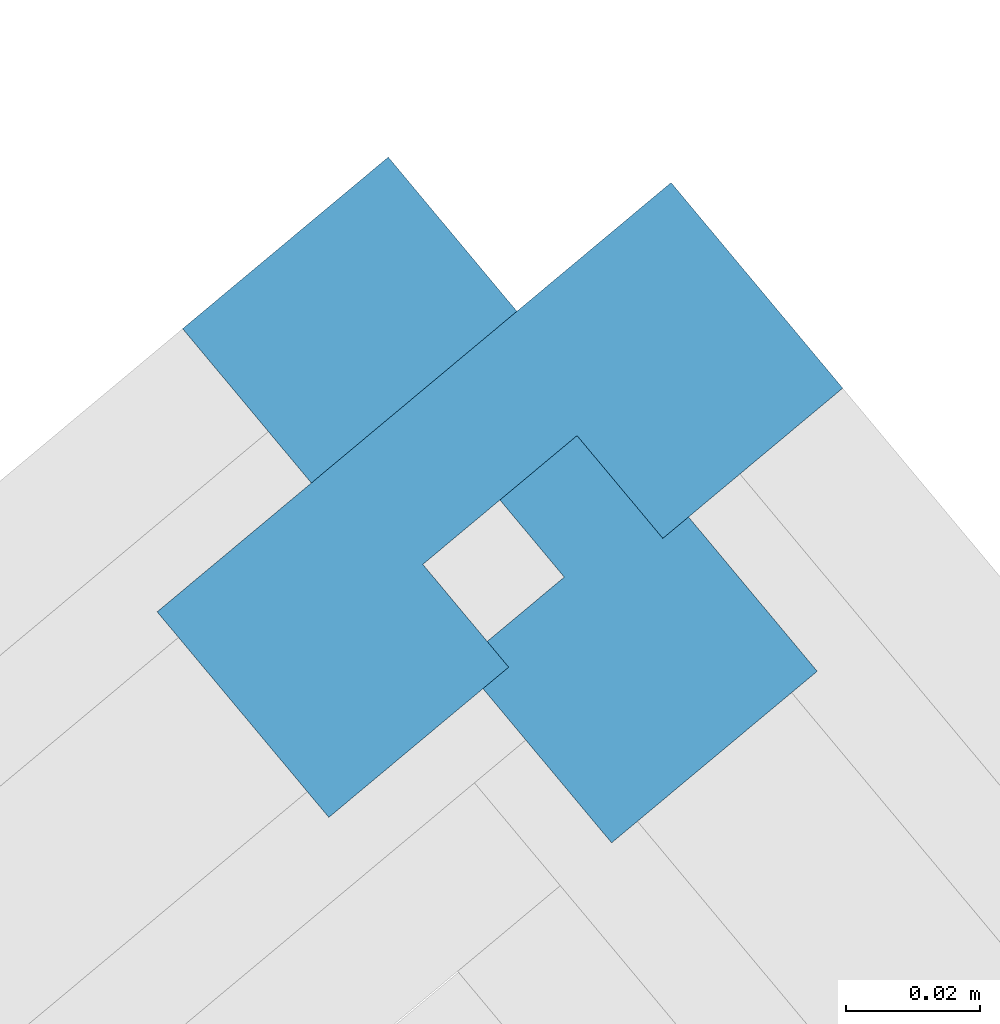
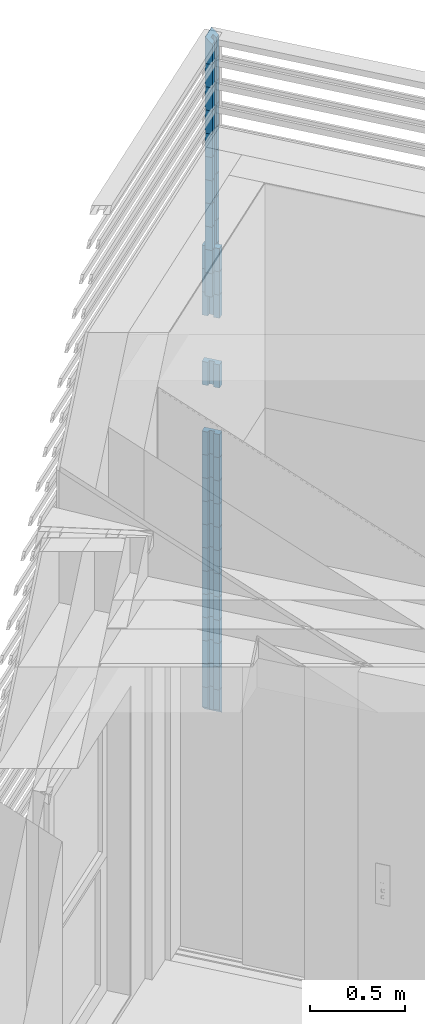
# One storey, part 46 of 50: 27 building element parts, 2 elements without a shape of their own.
"""IFC4 building model written with IfcOpenShell, lengths in metres."""

from ifc_helpers import new_model, entity, si_unit, converted_unit, derived_unit, direction, frame, origin_with_axes, place, context, subcontext, project, spatial, polygons, material, type_object, element, aggregate, save


model = new_model("IFC4")

# Units and contexts
model_context = context("Model", 3, precision=1e-05, world=origin_with_axes(), true_north=direction((0.0, 1.0)))
body_context = subcontext(model_context, "Body", "Model", "MODEL_VIEW")
ifc_project = project(units=[si_unit("LENGTHUNIT", "METRE"), si_unit("AREAUNIT", "SQUARE_METRE"), si_unit("VOLUMEUNIT", "CUBIC_METRE"), converted_unit("PLANEANGLEUNIT", "DEGREE", entity("IfcPlaneAngleMeasure", 0.0174532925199), si_unit("PLANEANGLEUNIT", "RADIAN"), dimensions=[0, 0, 0, 0, 0, 0, 0]), converted_unit("TIMEUNIT", "Year", entity("IfcTimeMeasure", 31556926.0), si_unit("TIMEUNIT", "SECOND"), dimensions=[0, 0, 1, 0, 0, 0, 0]), si_unit("MASSUNIT", "GRAM", prefix="KILO"), si_unit("THERMODYNAMICTEMPERATUREUNIT", "DEGREE_CELSIUS"), si_unit("LUMINOUSINTENSITYUNIT", "LUMEN"), si_unit("ENERGYUNIT", "JOULE", prefix="MEGA"), derived_unit("THERMALCONDUCTANCEUNIT", [(si_unit("POWERUNIT", "WATT"), 1), (si_unit("LENGTHUNIT", "METRE"), -1), (si_unit("THERMODYNAMICTEMPERATUREUNIT", "KELVIN"), -1)]), derived_unit("SPECIFICHEATCAPACITYUNIT", [(si_unit("ENERGYUNIT", "JOULE"), 1), (si_unit("MASSUNIT", "GRAM", prefix="KILO"), -1), (si_unit("THERMODYNAMICTEMPERATUREUNIT", "KELVIN"), -1)]), derived_unit("MASSDENSITYUNIT", [(si_unit("MASSUNIT", "GRAM", prefix="KILO"), 1), (si_unit("VOLUMEUNIT", "CUBIC_METRE"), -1)])], contexts=[model_context])

# Site, building, storey, space
site_placement = place(None, frame((-0.00153261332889, -0.00661245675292, 0.0), z_axis=(0.0, 0.0, 1.0), x_axis=(1.0, 0.0, 0.0)))
site = spatial("IfcSite", under=ifc_project, at=site_placement, Name="Gelände", CompositionType="ELEMENT")
building_placement = place(site_placement, origin_with_axes())
building = spatial("IfcBuilding", under=site, at=building_placement, Name="Gebäude", CompositionType="ELEMENT")
storey_placement = place(building_placement, frame((0.0, 0.0, 8.66), z_axis=(0.0, 0.0, 1.0), x_axis=(1.0, 0.0, 0.0)))
storey = spatial("IfcBuildingStorey", under=building, at=storey_placement, Name="DG2", CompositionType="ELEMENT", Elevation=8.66)
space_1_placement = place(storey_placement, frame((6.83696947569, 22.4856827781, 0.22), z_axis=(0.0, 0.0, 1.0), x_axis=(0.767365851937, 0.641209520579, 0.0)))
space_1 = spatial("IfcSpace", under=storey, at=space_1_placement, CompositionType="ELEMENT", PredefinedType="NOTDEFINED")

# Curtain wall, building element parts
curtain_wall_type = type_object("IfcCurtainWallType", Name="Fassadentyp", PredefinedType="NOTDEFINED")
curtain_wall_1_placement = place(space_1_placement, frame((-0.611260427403, 4.89750550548, 0.1), z_axis=(0.0, 0.0, 1.0), x_axis=(0.767365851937, -0.641209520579, 0.0)))
curtain_wall_1 = element("IfcCurtainWall", 1, at=curtain_wall_1_placement, inside=space_1, type_object=curtain_wall_type, Name="Fassade-001", PredefinedType="NOTDEFINED")
ifc_material = material(Name="Blech")
building_element_part_1_placement = place(curtain_wall_1_placement, origin_with_axes())
building_element_part_1 = element("IfcBuildingElementPart", 2, at=building_element_part_1_placement, material=ifc_material, Name="Blech", PredefinedType="NOTDEFINED", context=body_context, shape_type="Tessellation", body=[
    polygons([(-1.57788459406, 1.86580520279, 2.85), (-1.55485923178, 1.88503623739, 2.85), (-1.54203854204, 1.86968599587, 2.85), (-1.51517561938, 1.8921222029, 2.85), (-1.54081699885, 1.92282268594, 2.85), (-1.61756820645, 1.85871923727, 2.85), (-1.59192682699, 1.82801875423, 2.85), (-1.56506390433, 1.85045496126, 2.85), (-1.57788459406, 1.86580520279, 2.7), (-1.55485923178, 1.88503623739, 2.7), (-1.54203854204, 1.86968599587, 2.7), (-1.51517561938, 1.8921222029, 2.7), (-1.54081699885, 1.92282268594, 2.7), (-1.61756820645, 1.85871923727, 2.7), (-1.59192682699, 1.82801875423, 2.7), (-1.56506390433, 1.85045496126, 2.7)], [[[1, 2, 3, 4, 5, 6, 7, 8]], [[2, 1, 9, 10]], [[11, 3, 2, 10]], [[3, 11, 12, 4]], [[13, 5, 4, 12]], [[14, 6, 5, 13]], [[15, 7, 6, 14]], [[16, 8, 7, 15]], [[1, 8, 16, 9]], [[9, 16, 15, 14, 13, 12, 11, 10]]], closed=True),
])
building_element_part_2_placement = place(curtain_wall_1_placement, origin_with_axes())
building_element_part_2 = element("IfcBuildingElementPart", 3, at=building_element_part_2_placement, material=ifc_material, Name="Blech", PredefinedType="NOTDEFINED", context=body_context, shape_type="Tessellation", body=[
    polygons([(-1.57788459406, 1.86580520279, 3.0), (-1.55485923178, 1.88503623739, 3.0), (-1.54203854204, 1.86968599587, 3.0), (-1.51517561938, 1.8921222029, 3.0), (-1.54081699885, 1.92282268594, 3.0), (-1.61756820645, 1.85871923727, 3.0), (-1.59192682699, 1.82801875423, 3.0), (-1.56506390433, 1.85045496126, 3.0), (-1.57788459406, 1.86580520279, 2.85), (-1.55485923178, 1.88503623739, 2.85), (-1.54203854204, 1.86968599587, 2.85), (-1.51517561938, 1.8921222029, 2.85), (-1.54081699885, 1.92282268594, 2.85), (-1.61756820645, 1.85871923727, 2.85), (-1.59192682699, 1.82801875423, 2.85), (-1.56506390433, 1.85045496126, 2.85)], [[[1, 2, 3, 4, 5, 6, 7, 8]], [[2, 1, 9, 10]], [[11, 3, 2, 10]], [[3, 11, 12, 4]], [[13, 5, 4, 12]], [[14, 6, 5, 13]], [[15, 7, 6, 14]], [[16, 8, 7, 15]], [[1, 8, 16, 9]], [[9, 16, 15, 14, 13, 12, 11, 10]]], closed=True),
])
building_element_part_3_placement = place(curtain_wall_1_placement, origin_with_axes())
building_element_part_3 = element("IfcBuildingElementPart", 4, at=building_element_part_3_placement, material=ifc_material, Name="Blech", PredefinedType="NOTDEFINED", context=body_context, shape_type="Tessellation", body=[
    polygons([(-1.57788459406, 1.86580520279, 3.15), (-1.55485923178, 1.88503623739, 3.15), (-1.54203854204, 1.86968599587, 3.15), (-1.51517561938, 1.8921222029, 3.15), (-1.54081699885, 1.92282268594, 3.15), (-1.61756820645, 1.85871923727, 3.15), (-1.59192682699, 1.82801875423, 3.15), (-1.56506390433, 1.85045496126, 3.15), (-1.57788459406, 1.86580520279, 3.0), (-1.55485923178, 1.88503623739, 3.0), (-1.54203854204, 1.86968599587, 3.0), (-1.51517561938, 1.8921222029, 3.0), (-1.54081699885, 1.92282268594, 3.0), (-1.61756820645, 1.85871923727, 3.0), (-1.59192682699, 1.82801875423, 3.0), (-1.56506390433, 1.85045496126, 3.0)], [[[1, 2, 3, 4, 5, 6, 7, 8]], [[2, 1, 9, 10]], [[11, 3, 2, 10]], [[3, 11, 12, 4]], [[13, 5, 4, 12]], [[14, 6, 5, 13]], [[15, 7, 6, 14]], [[16, 8, 7, 15]], [[1, 8, 16, 9]], [[9, 16, 15, 14, 13, 12, 11, 10]]], closed=True),
])
building_element_part_4_placement = place(curtain_wall_1_placement, origin_with_axes())
building_element_part_4 = element("IfcBuildingElementPart", 5, at=building_element_part_4_placement, material=ifc_material, Name="Blech", PredefinedType="NOTDEFINED", context=body_context, shape_type="Tessellation", body=[
    polygons([(-1.57788459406, 1.86580520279, 3.3), (-1.55485923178, 1.88503623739, 3.3), (-1.54203854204, 1.86968599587, 3.3), (-1.51517561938, 1.8921222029, 3.3), (-1.54081699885, 1.92282268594, 3.3), (-1.61756820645, 1.85871923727, 3.3), (-1.59192682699, 1.82801875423, 3.3), (-1.56506390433, 1.85045496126, 3.3), (-1.57788459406, 1.86580520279, 3.15), (-1.55485923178, 1.88503623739, 3.15), (-1.54203854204, 1.86968599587, 3.15), (-1.51517561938, 1.8921222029, 3.15), (-1.54081699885, 1.92282268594, 3.15), (-1.61756820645, 1.85871923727, 3.15), (-1.59192682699, 1.82801875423, 3.15), (-1.56506390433, 1.85045496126, 3.15)], [[[1, 2, 3, 4, 5, 6, 7, 8]], [[2, 1, 9, 10]], [[11, 3, 2, 10]], [[3, 11, 12, 4]], [[13, 5, 4, 12]], [[14, 6, 5, 13]], [[15, 7, 6, 14]], [[16, 8, 7, 15]], [[1, 8, 16, 9]], [[9, 16, 15, 14, 13, 12, 11, 10]]], closed=True),
])
building_element_part_5_placement = place(curtain_wall_1_placement, origin_with_axes())
building_element_part_5 = element("IfcBuildingElementPart", 6, at=building_element_part_5_placement, material=ifc_material, Name="Blech", PredefinedType="NOTDEFINED", context=body_context, shape_type="Tessellation", body=[
    polygons([(-1.57788459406, 1.86580520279, 3.45), (-1.55485923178, 1.88503623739, 3.45), (-1.54203854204, 1.86968599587, 3.45), (-1.51517561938, 1.8921222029, 3.45), (-1.54081699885, 1.92282268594, 3.45), (-1.61756820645, 1.85871923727, 3.45), (-1.59192682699, 1.82801875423, 3.45), (-1.56506390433, 1.85045496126, 3.45), (-1.57788459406, 1.86580520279, 3.3), (-1.55485923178, 1.88503623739, 3.3), (-1.54203854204, 1.86968599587, 3.3), (-1.51517561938, 1.8921222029, 3.3), (-1.54081699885, 1.92282268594, 3.3), (-1.61756820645, 1.85871923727, 3.3), (-1.59192682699, 1.82801875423, 3.3), (-1.56506390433, 1.85045496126, 3.3)], [[[1, 2, 3, 4, 5, 6, 7, 8]], [[2, 1, 9, 10]], [[11, 3, 2, 10]], [[3, 11, 12, 4]], [[13, 5, 4, 12]], [[14, 6, 5, 13]], [[15, 7, 6, 14]], [[16, 8, 7, 15]], [[1, 8, 16, 9]], [[9, 16, 15, 14, 13, 12, 11, 10]]], closed=True),
])
building_element_part_6_placement = place(curtain_wall_1_placement, origin_with_axes())
building_element_part_6 = element("IfcBuildingElementPart", 7, at=building_element_part_6_placement, material=ifc_material, Name="Blech", PredefinedType="NOTDEFINED", context=body_context, shape_type="Tessellation", body=[
    polygons([(-1.57788459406, 1.86580520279, 3.6), (-1.55485923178, 1.88503623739, 3.6), (-1.54203854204, 1.86968599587, 3.6), (-1.51517561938, 1.8921222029, 3.6), (-1.54081699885, 1.92282268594, 3.6), (-1.61756820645, 1.85871923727, 3.6), (-1.59192682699, 1.82801875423, 3.6), (-1.56506390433, 1.85045496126, 3.6), (-1.57788459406, 1.86580520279, 3.45), (-1.55485923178, 1.88503623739, 3.45), (-1.54203854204, 1.86968599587, 3.45), (-1.51517561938, 1.8921222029, 3.45), (-1.54081699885, 1.92282268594, 3.45), (-1.61756820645, 1.85871923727, 3.45), (-1.59192682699, 1.82801875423, 3.45), (-1.56506390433, 1.85045496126, 3.45)], [[[1, 2, 3, 4, 5, 6, 7, 8]], [[2, 1, 9, 10]], [[11, 3, 2, 10]], [[3, 11, 12, 4]], [[13, 5, 4, 12]], [[14, 6, 5, 13]], [[15, 7, 6, 14]], [[16, 8, 7, 15]], [[1, 8, 16, 9]], [[9, 16, 15, 14, 13, 12, 11, 10]]], closed=True),
])
building_element_part_7_placement = place(curtain_wall_1_placement, origin_with_axes())
building_element_part_7 = element("IfcBuildingElementPart", 8, at=building_element_part_7_placement, material=ifc_material, Name="Blech", PredefinedType="NOTDEFINED", context=body_context, shape_type="Tessellation", body=[
    polygons([(-1.57788459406, 1.86580520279, 3.75), (-1.55485923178, 1.88503623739, 3.75), (-1.54203854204, 1.86968599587, 3.75), (-1.51517561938, 1.8921222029, 3.75), (-1.54081699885, 1.92282268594, 3.75), (-1.61756820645, 1.85871923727, 3.75), (-1.59192682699, 1.82801875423, 3.75), (-1.56506390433, 1.85045496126, 3.75), (-1.57788459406, 1.86580520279, 3.6), (-1.55485923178, 1.88503623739, 3.6), (-1.54203854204, 1.86968599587, 3.6), (-1.51517561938, 1.8921222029, 3.6), (-1.54081699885, 1.92282268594, 3.6), (-1.61756820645, 1.85871923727, 3.6), (-1.59192682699, 1.82801875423, 3.6), (-1.56506390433, 1.85045496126, 3.6)], [[[1, 2, 3, 4, 5, 6, 7, 8]], [[2, 1, 9, 10]], [[11, 3, 2, 10]], [[3, 11, 12, 4]], [[13, 5, 4, 12]], [[14, 6, 5, 13]], [[15, 7, 6, 14]], [[16, 8, 7, 15]], [[1, 8, 16, 9]], [[9, 16, 15, 14, 13, 12, 11, 10]]], closed=True),
])
building_element_part_8_placement = place(curtain_wall_1_placement, origin_with_axes())
building_element_part_8 = element("IfcBuildingElementPart", 9, at=building_element_part_8_placement, material=ifc_material, Name="Blech", PredefinedType="NOTDEFINED", context=body_context, shape_type="Tessellation", body=[
    polygons([(-1.57788459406, 1.86580520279, 3.9), (-1.55485923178, 1.88503623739, 3.9), (-1.54203854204, 1.86968599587, 3.9), (-1.51517561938, 1.8921222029, 3.9), (-1.54081699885, 1.92282268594, 3.9), (-1.61756820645, 1.85871923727, 3.9), (-1.59192682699, 1.82801875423, 3.9), (-1.56506390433, 1.85045496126, 3.9), (-1.57788459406, 1.86580520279, 3.75), (-1.55485923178, 1.88503623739, 3.75), (-1.54203854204, 1.86968599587, 3.75), (-1.51517561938, 1.8921222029, 3.75), (-1.54081699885, 1.92282268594, 3.75), (-1.61756820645, 1.85871923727, 3.75), (-1.59192682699, 1.82801875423, 3.75), (-1.56506390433, 1.85045496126, 3.75)], [[[1, 2, 3, 4, 5, 6, 7, 8]], [[2, 1, 9, 10]], [[11, 3, 2, 10]], [[3, 11, 12, 4]], [[13, 5, 4, 12]], [[14, 6, 5, 13]], [[15, 7, 6, 14]], [[16, 8, 7, 15]], [[1, 8, 16, 9]], [[9, 16, 15, 14, 13, 12, 11, 10]]], closed=True),
])
building_element_part_9_placement = place(curtain_wall_1_placement, origin_with_axes())
building_element_part_9 = element("IfcBuildingElementPart", 10, at=building_element_part_9_placement, material=ifc_material, Name="Blech", PredefinedType="NOTDEFINED", context=body_context, shape_type="Tessellation", body=[
    polygons([(-1.57788459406, 1.86580520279, 4.05), (-1.55485923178, 1.88503623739, 4.05), (-1.54203854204, 1.86968599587, 4.05), (-1.51517561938, 1.8921222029, 4.05), (-1.54081699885, 1.92282268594, 4.05), (-1.61756820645, 1.85871923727, 4.05), (-1.59192682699, 1.82801875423, 4.05), (-1.56506390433, 1.85045496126, 4.05), (-1.57788459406, 1.86580520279, 3.9), (-1.55485923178, 1.88503623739, 3.9), (-1.54203854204, 1.86968599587, 3.9), (-1.51517561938, 1.8921222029, 3.9), (-1.54081699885, 1.92282268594, 3.9), (-1.61756820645, 1.85871923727, 3.9), (-1.59192682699, 1.82801875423, 3.9), (-1.56506390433, 1.85045496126, 3.9)], [[[1, 2, 3, 4, 5, 6, 7, 8]], [[2, 1, 9, 10]], [[11, 3, 2, 10]], [[3, 11, 12, 4]], [[13, 5, 4, 12]], [[14, 6, 5, 13]], [[15, 7, 6, 14]], [[16, 8, 7, 15]], [[1, 8, 16, 9]], [[9, 16, 15, 14, 13, 12, 11, 10]]], closed=True),
])
building_element_part_10_placement = place(curtain_wall_1_placement, origin_with_axes())
building_element_part_10 = element("IfcBuildingElementPart", 11, at=building_element_part_10_placement, material=ifc_material, Name="Blech", PredefinedType="NOTDEFINED", context=body_context, shape_type="Tessellation", body=[
    polygons([(-1.57788459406, 1.86580520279, 4.2), (-1.55485923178, 1.88503623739, 4.2), (-1.54203854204, 1.86968599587, 4.2), (-1.51517561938, 1.8921222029, 4.2), (-1.54081699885, 1.92282268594, 4.2), (-1.61756820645, 1.85871923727, 4.2), (-1.59192682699, 1.82801875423, 4.2), (-1.56506390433, 1.85045496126, 4.2), (-1.57788459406, 1.86580520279, 4.05), (-1.55485923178, 1.88503623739, 4.05), (-1.54203854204, 1.86968599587, 4.05), (-1.51517561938, 1.8921222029, 4.05), (-1.54081699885, 1.92282268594, 4.05), (-1.61756820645, 1.85871923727, 4.05), (-1.59192682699, 1.82801875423, 4.05), (-1.56506390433, 1.85045496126, 4.05)], [[[1, 2, 3, 4, 5, 6, 7, 8]], [[2, 1, 9, 10]], [[11, 3, 2, 10]], [[3, 11, 12, 4]], [[13, 5, 4, 12]], [[14, 6, 5, 13]], [[15, 7, 6, 14]], [[16, 8, 7, 15]], [[1, 8, 16, 9]], [[9, 16, 15, 14, 13, 12, 11, 10]]], closed=True),
])
building_element_part_11_placement = place(curtain_wall_1_placement, origin_with_axes())
building_element_part_11 = element("IfcBuildingElementPart", 12, at=building_element_part_11_placement, material=ifc_material, Name="Blech", PredefinedType="NOTDEFINED", context=body_context, shape_type="Tessellation", body=[
    polygons([(-1.57788459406, 1.86580520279, 4.35000006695), (-1.55485923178, 1.88503623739, 4.35000006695), (-1.54203854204, 1.86968599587, 4.33000006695), (-1.51517561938, 1.8921222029, 4.33000006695), (-1.54081699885, 1.92282268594, 4.37000006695), (-1.61756820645, 1.85871923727, 4.37000006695), (-1.59192682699, 1.82801875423, 4.33000006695), (-1.56506390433, 1.85045496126, 4.33000006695), (-1.57788459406, 1.86580520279, 4.2), (-1.55485923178, 1.88503623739, 4.2), (-1.54203854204, 1.86968599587, 4.2), (-1.51517561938, 1.8921222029, 4.2), (-1.54081699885, 1.92282268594, 4.2), (-1.61756820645, 1.85871923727, 4.2), (-1.59192682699, 1.82801875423, 4.2), (-1.56506390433, 1.85045496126, 4.2)], [[[1, 2, 3, 4, 5, 6, 7, 8]], [[2, 1, 9, 10]], [[11, 3, 2, 10]], [[3, 11, 12, 4]], [[13, 5, 4, 12]], [[14, 6, 5, 13]], [[15, 7, 6, 14]], [[16, 8, 7, 15]], [[1, 8, 16, 9]], [[9, 16, 15, 14, 13, 12, 11, 10]]], closed=True),
])
aggregate(curtain_wall_1, [building_element_part_1, building_element_part_2, building_element_part_3, building_element_part_4, building_element_part_5, building_element_part_6, building_element_part_7, building_element_part_8, building_element_part_9, building_element_part_10, building_element_part_11])

# Space
space_2_placement = place(storey_placement, frame((-4.06558748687, 22.1637970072, 0.22), z_axis=(0.0, 0.0, 1.0), x_axis=(-0.767365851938, -0.641209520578, 0.0)))
space_2 = spatial("IfcSpace", under=storey, at=space_2_placement, CompositionType="ELEMENT", PredefinedType="NOTDEFINED")

# Curtain wall, building element parts
curtain_wall_2_placement = place(space_2_placement, frame((-1.95298492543, -0.601365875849, 0.1), z_axis=(0.0, 0.0, 1.0), x_axis=(-0.767365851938, 0.641209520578, 0.0)))
curtain_wall_2 = element("IfcCurtainWall", 13, at=curtain_wall_2_placement, inside=space_2, type_object=curtain_wall_type, Name="Fassade-001", PredefinedType="NOTDEFINED")
building_element_part_12_placement = place(curtain_wall_2_placement, origin_with_axes())
building_element_part_12 = element("IfcBuildingElementPart", 14, at=building_element_part_12_placement, material=ifc_material, Name="Blech", PredefinedType="NOTDEFINED", context=body_context, shape_type="Tessellation", body=[
    polygons([(4.62335524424, 3.83828163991, 3.0), (4.60799902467, 3.8254681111, 3.0), (4.63042270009, 3.79859472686, 3.0), (4.66113513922, 3.82422178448, 3.0), (4.59706749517, 3.90100288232, 3.0), (4.56635505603, 3.8753758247, 3.0), (4.58877873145, 3.84850244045, 3.0), (4.60413495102, 3.86131596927, 3.0), (4.62335524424, 3.83828163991, 2.85), (4.60799902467, 3.8254681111, 2.85), (4.63042270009, 3.79859472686, 2.85), (4.66113513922, 3.82422178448, 2.85), (4.59706749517, 3.90100288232, 2.85), (4.56635505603, 3.8753758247, 2.85), (4.58877873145, 3.84850244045, 2.85), (4.60413495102, 3.86131596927, 2.85)], [[[1, 2, 3, 4, 5, 6, 7, 8]], [[1, 9, 10, 2]], [[10, 11, 3, 2]], [[11, 12, 4, 3]], [[12, 13, 5, 4]], [[13, 14, 6, 5]], [[7, 6, 14, 15]], [[15, 16, 8, 7]], [[8, 16, 9, 1]], [[9, 16, 15, 14, 13, 12, 11, 10]]], closed=True),
])
building_element_part_13_placement = place(curtain_wall_2_placement, origin_with_axes())
building_element_part_13 = element("IfcBuildingElementPart", 15, at=building_element_part_13_placement, material=ifc_material, Name="Blech", PredefinedType="NOTDEFINED", context=body_context, shape_type="Tessellation", body=[
    polygons([(4.62335524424, 3.83828163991, 0.15), (4.60799902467, 3.8254681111, 0.15), (4.63042270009, 3.79859472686, 0.15), (4.66113513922, 3.82422178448, 0.15), (4.59706749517, 3.90100288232, 0.15), (4.56635505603, 3.8753758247, 0.15), (4.58877873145, 3.84850244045, 0.15), (4.60413495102, 3.86131596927, 0.15), (4.62335524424, 3.83828163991, 0.0), (4.60799902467, 3.8254681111, 0.02), (4.63042270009, 3.79859472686, 0.02), (4.66113513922, 3.82422178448, -0.02), (4.59706749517, 3.90100288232, -0.02), (4.56635505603, 3.8753758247, 0.02), (4.58877873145, 3.84850244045, 0.02), (4.60413495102, 3.86131596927, 0.0)], [[[1, 2, 3, 4, 5, 6, 7, 8]], [[1, 9, 10, 2]], [[10, 11, 3, 2]], [[3, 11, 12, 4]], [[4, 12, 13, 5]], [[5, 13, 14, 6]], [[7, 6, 14, 15]], [[15, 16, 8, 7]], [[8, 16, 9, 1]], [[9, 16, 15, 14, 13, 12, 11, 10]]], closed=True),
])
building_element_part_14_placement = place(curtain_wall_2_placement, origin_with_axes())
building_element_part_14 = element("IfcBuildingElementPart", 16, at=building_element_part_14_placement, material=ifc_material, Name="Blech", PredefinedType="NOTDEFINED", context=body_context, shape_type="Tessellation", body=[
    polygons([(4.62335524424, 3.83828163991, 2.25), (4.60799902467, 3.8254681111, 2.25), (4.63042270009, 3.79859472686, 2.25), (4.66113513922, 3.82422178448, 2.25), (4.59706749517, 3.90100288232, 2.25), (4.56635505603, 3.8753758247, 2.25), (4.58877873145, 3.84850244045, 2.25), (4.60413495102, 3.86131596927, 2.25), (4.62335524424, 3.83828163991, 2.1), (4.60799902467, 3.8254681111, 2.1), (4.63042270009, 3.79859472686, 2.1), (4.66113513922, 3.82422178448, 2.1), (4.59706749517, 3.90100288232, 2.1), (4.56635505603, 3.8753758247, 2.1), (4.58877873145, 3.84850244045, 2.1), (4.60413495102, 3.86131596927, 2.1)], [[[1, 2, 3, 4, 5, 6, 7, 8]], [[1, 9, 10, 2]], [[10, 11, 3, 2]], [[11, 12, 4, 3]], [[12, 13, 5, 4]], [[13, 14, 6, 5]], [[7, 6, 14, 15]], [[15, 16, 8, 7]], [[8, 16, 9, 1]], [[9, 16, 15, 14, 13, 12, 11, 10]]], closed=True),
])
building_element_part_15_placement = place(curtain_wall_2_placement, origin_with_axes())
building_element_part_15 = element("IfcBuildingElementPart", 17, at=building_element_part_15_placement, material=ifc_material, Name="Blech", PredefinedType="NOTDEFINED", context=body_context, shape_type="Tessellation", body=[
    polygons([(4.62335524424, 3.83828163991, 0.3), (4.60799902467, 3.8254681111, 0.3), (4.63042270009, 3.79859472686, 0.3), (4.66113513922, 3.82422178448, 0.3), (4.59706749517, 3.90100288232, 0.3), (4.56635505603, 3.8753758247, 0.3), (4.58877873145, 3.84850244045, 0.3), (4.60413495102, 3.86131596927, 0.3), (4.62335524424, 3.83828163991, 0.15), (4.60799902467, 3.8254681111, 0.15), (4.63042270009, 3.79859472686, 0.15), (4.66113513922, 3.82422178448, 0.15), (4.59706749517, 3.90100288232, 0.15), (4.56635505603, 3.8753758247, 0.15), (4.58877873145, 3.84850244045, 0.15), (4.60413495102, 3.86131596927, 0.15)], [[[1, 2, 3, 4, 5, 6, 7, 8]], [[1, 9, 10, 2]], [[10, 11, 3, 2]], [[11, 12, 4, 3]], [[12, 13, 5, 4]], [[13, 14, 6, 5]], [[7, 6, 14, 15]], [[15, 16, 8, 7]], [[8, 16, 9, 1]], [[9, 16, 15, 14, 13, 12, 11, 10]]], closed=True),
])
building_element_part_16_placement = place(curtain_wall_2_placement, origin_with_axes())
building_element_part_16 = element("IfcBuildingElementPart", 18, at=building_element_part_16_placement, material=ifc_material, Name="Blech", PredefinedType="NOTDEFINED", context=body_context, shape_type="Tessellation", body=[
    polygons([(4.62335524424, 3.83828163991, 0.45), (4.60799902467, 3.8254681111, 0.45), (4.63042270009, 3.79859472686, 0.45), (4.66113513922, 3.82422178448, 0.45), (4.59706749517, 3.90100288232, 0.45), (4.56635505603, 3.8753758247, 0.45), (4.58877873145, 3.84850244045, 0.45), (4.60413495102, 3.86131596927, 0.45), (4.62335524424, 3.83828163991, 0.3), (4.60799902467, 3.8254681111, 0.3), (4.63042270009, 3.79859472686, 0.3), (4.66113513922, 3.82422178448, 0.3), (4.59706749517, 3.90100288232, 0.3), (4.56635505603, 3.8753758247, 0.3), (4.58877873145, 3.84850244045, 0.3), (4.60413495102, 3.86131596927, 0.3)], [[[1, 2, 3, 4, 5, 6, 7, 8]], [[1, 9, 10, 2]], [[10, 11, 3, 2]], [[11, 12, 4, 3]], [[12, 13, 5, 4]], [[13, 14, 6, 5]], [[7, 6, 14, 15]], [[15, 16, 8, 7]], [[8, 16, 9, 1]], [[9, 16, 15, 14, 13, 12, 11, 10]]], closed=True),
])
building_element_part_17_placement = place(curtain_wall_2_placement, origin_with_axes())
building_element_part_17 = element("IfcBuildingElementPart", 19, at=building_element_part_17_placement, material=ifc_material, Name="Blech", PredefinedType="NOTDEFINED", context=body_context, shape_type="Tessellation", body=[
    polygons([(4.62335524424, 3.83828163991, 0.6), (4.60799902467, 3.8254681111, 0.6), (4.63042270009, 3.79859472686, 0.6), (4.66113513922, 3.82422178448, 0.6), (4.59706749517, 3.90100288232, 0.6), (4.56635505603, 3.8753758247, 0.6), (4.58877873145, 3.84850244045, 0.6), (4.60413495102, 3.86131596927, 0.6), (4.62335524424, 3.83828163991, 0.45), (4.60799902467, 3.8254681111, 0.45), (4.63042270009, 3.79859472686, 0.45), (4.66113513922, 3.82422178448, 0.45), (4.59706749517, 3.90100288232, 0.45), (4.56635505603, 3.8753758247, 0.45), (4.58877873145, 3.84850244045, 0.45), (4.60413495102, 3.86131596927, 0.45)], [[[1, 2, 3, 4, 5, 6, 7, 8]], [[1, 9, 10, 2]], [[10, 11, 3, 2]], [[11, 12, 4, 3]], [[12, 13, 5, 4]], [[13, 14, 6, 5]], [[7, 6, 14, 15]], [[15, 16, 8, 7]], [[8, 16, 9, 1]], [[9, 16, 15, 14, 13, 12, 11, 10]]], closed=True),
])
building_element_part_18_placement = place(curtain_wall_2_placement, origin_with_axes())
building_element_part_18 = element("IfcBuildingElementPart", 20, at=building_element_part_18_placement, material=ifc_material, Name="Blech", PredefinedType="NOTDEFINED", context=body_context, shape_type="Tessellation", body=[
    polygons([(4.62335524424, 3.83828163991, 0.75), (4.60799902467, 3.8254681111, 0.75), (4.63042270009, 3.79859472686, 0.75), (4.66113513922, 3.82422178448, 0.75), (4.59706749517, 3.90100288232, 0.75), (4.56635505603, 3.8753758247, 0.75), (4.58877873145, 3.84850244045, 0.75), (4.60413495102, 3.86131596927, 0.75), (4.62335524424, 3.83828163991, 0.6), (4.60799902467, 3.8254681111, 0.6), (4.63042270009, 3.79859472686, 0.6), (4.66113513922, 3.82422178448, 0.6), (4.59706749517, 3.90100288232, 0.6), (4.56635505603, 3.8753758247, 0.6), (4.58877873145, 3.84850244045, 0.6), (4.60413495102, 3.86131596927, 0.6)], [[[1, 2, 3, 4, 5, 6, 7, 8]], [[1, 9, 10, 2]], [[10, 11, 3, 2]], [[11, 12, 4, 3]], [[12, 13, 5, 4]], [[13, 14, 6, 5]], [[7, 6, 14, 15]], [[15, 16, 8, 7]], [[8, 16, 9, 1]], [[9, 16, 15, 14, 13, 12, 11, 10]]], closed=True),
])
building_element_part_19_placement = place(curtain_wall_2_placement, origin_with_axes())
building_element_part_19 = element("IfcBuildingElementPart", 21, at=building_element_part_19_placement, material=ifc_material, Name="Blech", PredefinedType="NOTDEFINED", context=body_context, shape_type="Tessellation", body=[
    polygons([(4.62335524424, 3.83828163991, 2.85), (4.60799902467, 3.8254681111, 2.85), (4.63042270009, 3.79859472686, 2.85), (4.66113513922, 3.82422178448, 2.85), (4.59706749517, 3.90100288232, 2.85), (4.56635505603, 3.8753758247, 2.85), (4.58877873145, 3.84850244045, 2.85), (4.60413495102, 3.86131596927, 2.85), (4.62335524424, 3.83828163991, 2.7), (4.60799902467, 3.8254681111, 2.7), (4.63042270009, 3.79859472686, 2.7), (4.66113513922, 3.82422178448, 2.7), (4.59706749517, 3.90100288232, 2.7), (4.56635505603, 3.8753758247, 2.7), (4.58877873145, 3.84850244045, 2.7), (4.60413495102, 3.86131596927, 2.7)], [[[1, 2, 3, 4, 5, 6, 7, 8]], [[1, 9, 10, 2]], [[10, 11, 3, 2]], [[11, 12, 4, 3]], [[12, 13, 5, 4]], [[13, 14, 6, 5]], [[7, 6, 14, 15]], [[15, 16, 8, 7]], [[8, 16, 9, 1]], [[9, 16, 15, 14, 13, 12, 11, 10]]], closed=True),
])
building_element_part_20_placement = place(curtain_wall_2_placement, origin_with_axes())
building_element_part_20 = element("IfcBuildingElementPart", 22, at=building_element_part_20_placement, material=ifc_material, Name="Blech", PredefinedType="NOTDEFINED", context=body_context, shape_type="Tessellation", body=[
    polygons([(4.62335524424, 3.83828163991, 0.9), (4.60799902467, 3.8254681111, 0.9), (4.63042270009, 3.79859472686, 0.9), (4.66113513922, 3.82422178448, 0.9), (4.59706749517, 3.90100288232, 0.9), (4.56635505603, 3.8753758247, 0.9), (4.58877873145, 3.84850244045, 0.9), (4.60413495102, 3.86131596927, 0.9), (4.62335524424, 3.83828163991, 0.75), (4.60799902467, 3.8254681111, 0.75), (4.63042270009, 3.79859472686, 0.75), (4.66113513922, 3.82422178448, 0.75), (4.59706749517, 3.90100288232, 0.75), (4.56635505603, 3.8753758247, 0.75), (4.58877873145, 3.84850244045, 0.75), (4.60413495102, 3.86131596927, 0.75)], [[[1, 2, 3, 4, 5, 6, 7, 8]], [[1, 9, 10, 2]], [[10, 11, 3, 2]], [[11, 12, 4, 3]], [[12, 13, 5, 4]], [[13, 14, 6, 5]], [[7, 6, 14, 15]], [[15, 16, 8, 7]], [[8, 16, 9, 1]], [[9, 16, 15, 14, 13, 12, 11, 10]]], closed=True),
])
building_element_part_21_placement = place(curtain_wall_2_placement, origin_with_axes())
building_element_part_21 = element("IfcBuildingElementPart", 23, at=building_element_part_21_placement, material=ifc_material, Name="Blech", PredefinedType="NOTDEFINED", context=body_context, shape_type="Tessellation", body=[
    polygons([(4.62335524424, 3.83828163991, 1.05), (4.60799902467, 3.8254681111, 1.05), (4.63042270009, 3.79859472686, 1.05), (4.66113513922, 3.82422178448, 1.05), (4.59706749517, 3.90100288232, 1.05), (4.56635505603, 3.8753758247, 1.05), (4.58877873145, 3.84850244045, 1.05), (4.60413495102, 3.86131596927, 1.05), (4.62335524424, 3.83828163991, 0.9), (4.60799902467, 3.8254681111, 0.9), (4.63042270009, 3.79859472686, 0.9), (4.66113513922, 3.82422178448, 0.9), (4.59706749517, 3.90100288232, 0.9), (4.56635505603, 3.8753758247, 0.9), (4.58877873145, 3.84850244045, 0.9), (4.60413495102, 3.86131596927, 0.9)], [[[1, 2, 3, 4, 5, 6, 7, 8]], [[1, 9, 10, 2]], [[10, 11, 3, 2]], [[11, 12, 4, 3]], [[12, 13, 5, 4]], [[13, 14, 6, 5]], [[7, 6, 14, 15]], [[15, 16, 8, 7]], [[8, 16, 9, 1]], [[9, 16, 15, 14, 13, 12, 11, 10]]], closed=True),
])
building_element_part_22_placement = place(curtain_wall_2_placement, origin_with_axes())
building_element_part_22 = element("IfcBuildingElementPart", 24, at=building_element_part_22_placement, material=ifc_material, Name="Blech", PredefinedType="NOTDEFINED", context=body_context, shape_type="Tessellation", body=[
    polygons([(4.62335524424, 3.83828163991, 1.2), (4.60799902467, 3.8254681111, 1.2), (4.63042270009, 3.79859472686, 1.2), (4.66113513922, 3.82422178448, 1.2), (4.59706749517, 3.90100288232, 1.2), (4.56635505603, 3.8753758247, 1.2), (4.58877873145, 3.84850244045, 1.2), (4.60413495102, 3.86131596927, 1.2), (4.62335524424, 3.83828163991, 1.05), (4.60799902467, 3.8254681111, 1.05), (4.63042270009, 3.79859472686, 1.05), (4.66113513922, 3.82422178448, 1.05), (4.59706749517, 3.90100288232, 1.05), (4.56635505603, 3.8753758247, 1.05), (4.58877873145, 3.84850244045, 1.05), (4.60413495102, 3.86131596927, 1.05)], [[[1, 2, 3, 4, 5, 6, 7, 8]], [[1, 9, 10, 2]], [[10, 11, 3, 2]], [[11, 12, 4, 3]], [[12, 13, 5, 4]], [[13, 14, 6, 5]], [[7, 6, 14, 15]], [[15, 16, 8, 7]], [[8, 16, 9, 1]], [[9, 16, 15, 14, 13, 12, 11, 10]]], closed=True),
])
building_element_part_23_placement = place(curtain_wall_2_placement, origin_with_axes())
building_element_part_23 = element("IfcBuildingElementPart", 25, at=building_element_part_23_placement, material=ifc_material, Name="Blech", PredefinedType="NOTDEFINED", context=body_context, shape_type="Tessellation", body=[
    polygons([(4.62335524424, 3.83828163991, 2.7), (4.60799902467, 3.8254681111, 2.7), (4.63042270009, 3.79859472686, 2.7), (4.66113513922, 3.82422178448, 2.7), (4.59706749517, 3.90100288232, 2.7), (4.56635505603, 3.8753758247, 2.7), (4.58877873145, 3.84850244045, 2.7), (4.60413495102, 3.86131596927, 2.7), (4.62335524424, 3.83828163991, 2.55), (4.60799902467, 3.8254681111, 2.55), (4.63042270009, 3.79859472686, 2.55), (4.66113513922, 3.82422178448, 2.55), (4.59706749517, 3.90100288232, 2.55), (4.56635505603, 3.8753758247, 2.55), (4.58877873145, 3.84850244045, 2.55), (4.60413495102, 3.86131596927, 2.55)], [[[1, 2, 3, 4, 5, 6, 7, 8]], [[1, 9, 10, 2]], [[10, 11, 3, 2]], [[11, 12, 4, 3]], [[12, 13, 5, 4]], [[13, 14, 6, 5]], [[7, 6, 14, 15]], [[15, 16, 8, 7]], [[8, 16, 9, 1]], [[9, 16, 15, 14, 13, 12, 11, 10]]], closed=True),
])
building_element_part_24_placement = place(curtain_wall_2_placement, origin_with_axes())
building_element_part_24 = element("IfcBuildingElementPart", 26, at=building_element_part_24_placement, material=ifc_material, Name="Blech", PredefinedType="NOTDEFINED", context=body_context, shape_type="Tessellation", body=[
    polygons([(4.62335524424, 3.83828163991, 1.35), (4.60799902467, 3.8254681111, 1.35), (4.63042270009, 3.79859472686, 1.35), (4.66113513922, 3.82422178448, 1.35), (4.59706749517, 3.90100288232, 1.35), (4.56635505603, 3.8753758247, 1.35), (4.58877873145, 3.84850244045, 1.35), (4.60413495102, 3.86131596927, 1.35), (4.62335524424, 3.83828163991, 1.2), (4.60799902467, 3.8254681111, 1.2), (4.63042270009, 3.79859472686, 1.2), (4.66113513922, 3.82422178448, 1.2), (4.59706749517, 3.90100288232, 1.2), (4.56635505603, 3.8753758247, 1.2), (4.58877873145, 3.84850244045, 1.2), (4.60413495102, 3.86131596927, 1.2)], [[[1, 2, 3, 4, 5, 6, 7, 8]], [[1, 9, 10, 2]], [[10, 11, 3, 2]], [[11, 12, 4, 3]], [[12, 13, 5, 4]], [[13, 14, 6, 5]], [[7, 6, 14, 15]], [[15, 16, 8, 7]], [[8, 16, 9, 1]], [[9, 16, 15, 14, 13, 12, 11, 10]]], closed=True),
])
building_element_part_25_placement = place(curtain_wall_2_placement, origin_with_axes())
building_element_part_25 = element("IfcBuildingElementPart", 27, at=building_element_part_25_placement, material=ifc_material, Name="Blech", PredefinedType="NOTDEFINED", context=body_context, shape_type="Tessellation", body=[
    polygons([(4.62335524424, 3.83828163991, 1.5), (4.60799902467, 3.8254681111, 1.5), (4.63042270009, 3.79859472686, 1.5), (4.66113513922, 3.82422178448, 1.5), (4.59706749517, 3.90100288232, 1.5), (4.56635505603, 3.8753758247, 1.5), (4.58877873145, 3.84850244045, 1.5), (4.60413495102, 3.86131596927, 1.5), (4.62335524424, 3.83828163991, 1.35), (4.60799902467, 3.8254681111, 1.35), (4.63042270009, 3.79859472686, 1.35), (4.66113513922, 3.82422178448, 1.35), (4.59706749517, 3.90100288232, 1.35), (4.56635505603, 3.8753758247, 1.35), (4.58877873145, 3.84850244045, 1.35), (4.60413495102, 3.86131596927, 1.35)], [[[1, 2, 3, 4, 5, 6, 7, 8]], [[1, 9, 10, 2]], [[10, 11, 3, 2]], [[11, 12, 4, 3]], [[12, 13, 5, 4]], [[13, 14, 6, 5]], [[7, 6, 14, 15]], [[15, 16, 8, 7]], [[8, 16, 9, 1]], [[9, 16, 15, 14, 13, 12, 11, 10]]], closed=True),
])
building_element_part_26_placement = place(curtain_wall_2_placement, origin_with_axes())
building_element_part_26 = element("IfcBuildingElementPart", 28, at=building_element_part_26_placement, material=ifc_material, Name="Blech", PredefinedType="NOTDEFINED", context=body_context, shape_type="Tessellation", body=[
    polygons([(4.62335524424, 3.83828163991, 1.65), (4.60799902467, 3.8254681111, 1.65), (4.63042270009, 3.79859472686, 1.65), (4.66113513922, 3.82422178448, 1.65), (4.59706749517, 3.90100288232, 1.65), (4.56635505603, 3.8753758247, 1.65), (4.58877873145, 3.84850244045, 1.65), (4.60413495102, 3.86131596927, 1.65), (4.62335524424, 3.83828163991, 1.5), (4.60799902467, 3.8254681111, 1.5), (4.63042270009, 3.79859472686, 1.5), (4.66113513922, 3.82422178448, 1.5), (4.59706749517, 3.90100288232, 1.5), (4.56635505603, 3.8753758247, 1.5), (4.58877873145, 3.84850244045, 1.5), (4.60413495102, 3.86131596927, 1.5)], [[[1, 2, 3, 4, 5, 6, 7, 8]], [[1, 9, 10, 2]], [[10, 11, 3, 2]], [[11, 12, 4, 3]], [[12, 13, 5, 4]], [[13, 14, 6, 5]], [[7, 6, 14, 15]], [[15, 16, 8, 7]], [[8, 16, 9, 1]], [[9, 16, 15, 14, 13, 12, 11, 10]]], closed=True),
])
building_element_part_27_placement = place(curtain_wall_2_placement, origin_with_axes())
building_element_part_27 = element("IfcBuildingElementPart", 29, at=building_element_part_27_placement, material=ifc_material, Name="Blech", PredefinedType="NOTDEFINED", context=body_context, shape_type="Tessellation", body=[
    polygons([(4.62335524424, 3.83828163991, 1.8), (4.60799902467, 3.8254681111, 1.8), (4.63042270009, 3.79859472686, 1.8), (4.66113513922, 3.82422178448, 1.8), (4.59706749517, 3.90100288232, 1.8), (4.56635505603, 3.8753758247, 1.8), (4.58877873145, 3.84850244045, 1.8), (4.60413495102, 3.86131596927, 1.8), (4.62335524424, 3.83828163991, 1.65), (4.60799902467, 3.8254681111, 1.65), (4.63042270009, 3.79859472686, 1.65), (4.66113513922, 3.82422178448, 1.65), (4.59706749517, 3.90100288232, 1.65), (4.56635505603, 3.8753758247, 1.65), (4.58877873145, 3.84850244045, 1.65), (4.60413495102, 3.86131596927, 1.65)], [[[1, 2, 3, 4, 5, 6, 7, 8]], [[1, 9, 10, 2]], [[10, 11, 3, 2]], [[11, 12, 4, 3]], [[12, 13, 5, 4]], [[13, 14, 6, 5]], [[7, 6, 14, 15]], [[15, 16, 8, 7]], [[8, 16, 9, 1]], [[9, 16, 15, 14, 13, 12, 11, 10]]], closed=True),
])
aggregate(curtain_wall_2, [building_element_part_12, building_element_part_13, building_element_part_14, building_element_part_15, building_element_part_16, building_element_part_17, building_element_part_18, building_element_part_19, building_element_part_20, building_element_part_21, building_element_part_22, building_element_part_23, building_element_part_24, building_element_part_25, building_element_part_26, building_element_part_27])

save(model, "model.ifc")
